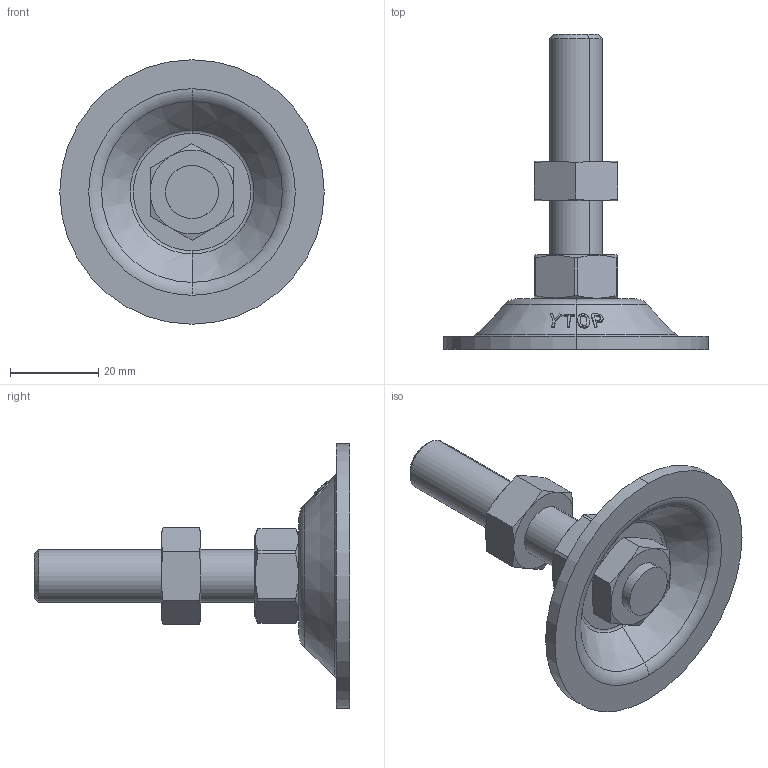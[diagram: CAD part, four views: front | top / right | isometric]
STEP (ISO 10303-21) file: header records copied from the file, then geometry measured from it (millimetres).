
FILE_DESCRIPTION (( 'STEP AP203' ), '1' );
FILE_NAME ('N-60-1250-S.STEP', '2020-09-10T07:56:54', ( '' ), ( '' ), 'SwSTEP 2.0', 'SolidWorks 2016', '' );
FILE_SCHEMA (( 'CONFIG_CONTROL_DESIGN' ));
Length unit declared in the file: millimetre
Products named in the file (5): 脚垫调节六角螺母M12; 脚垫锁紧六角薄螺母M12; H-60-3P H倰60菁釱; N-60-1250-S; 不锈钢双头螺栓M12系列_M12X50
Assembly tree (4 placements, depth 2):
  N-60-1250-S
    H-60-3P H倰60菁釱
    不锈钢双头螺栓M12系列_M12X50
    脚垫锁紧六角薄螺母M12
    脚垫调节六角螺母M12
Bounding box: 60 x 71.5 x 60 mm (x, y, z)
Volume: 22775.7 mm3; surface area: 12746.6 mm2
Topology: 4 solids, 4 shells, 146 faces, 342 edges, 214 vertices
Faces by surface type: cone 52, bspline 38, plane 30, cylinder 18, torus 8
Entity records: 7890 total; most frequent: CARTESIAN_POINT 4410, ORIENTED_EDGE 684, DIRECTION 492, EDGE_CURVE 342, AXIS2_PLACEMENT_3D 217, VERTEX_POINT 214, B_SPLINE_CURVE_WITH_KNOTS 182, EDGE_LOOP 162
